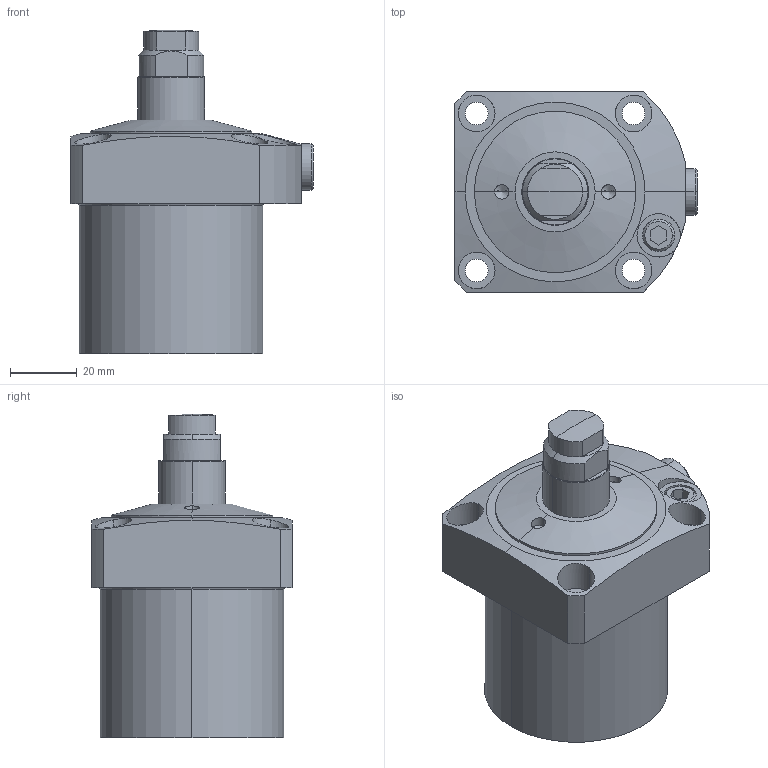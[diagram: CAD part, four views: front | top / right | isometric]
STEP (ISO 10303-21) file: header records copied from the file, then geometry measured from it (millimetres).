
FILE_DESCRIPTION(/* description */ (''),/* implementation_level */ '2;1');
FILE_NAME(/* name */ 'KFSS55.stp',/* time_stamp */ '2022-11-17T07:41:06+08:00',/* author */ (''),/* organization */ (''),/* preprocessor_version */ 'ST-DEVELOPER v16.7',/* originating_system */ 'SIEMENS PLM Software NX 12.0',/* authorisation */ '');
FILE_SCHEMA (('AP203_CONFIGURATION_CONTROLLED_3D_DESIGN_OF_MECHANICAL_PARTS_AND_ASSEMBLIES_MIM_LF { 1 0 10303 403 2 1 2}'));
Length unit declared in the file: millimetre
Products named in the file (5): KFSS55-01; KFSS55-02; KFSS55-03; KFSS55-04; LC0552-Cx-E_step
Assembly tree (4 placements, depth 2):
  LC0552-Cx-E_step
    KFSS55-04
    KFSS55-03
    KFSS55-02
    KFSS55-01
Bounding box: 72.5 x 60 x 97 mm (x, y, z)
Volume: 193687.2 mm3; surface area: 25784.3 mm2
Topology: 4 solids, 4 shells, 119 faces, 268 edges, 168 vertices
Faces by surface type: cylinder 51, plane 44, cone 20, sphere 2, torus 2
Entity records: 4080 total; most frequent: CARTESIAN_POINT 801, DIRECTION 606, ORIENTED_EDGE 528, EDGE_CURVE 264, AXIS2_PLACEMENT_3D 241, VERTEX_POINT 168, EDGE_LOOP 142, LINE 124
